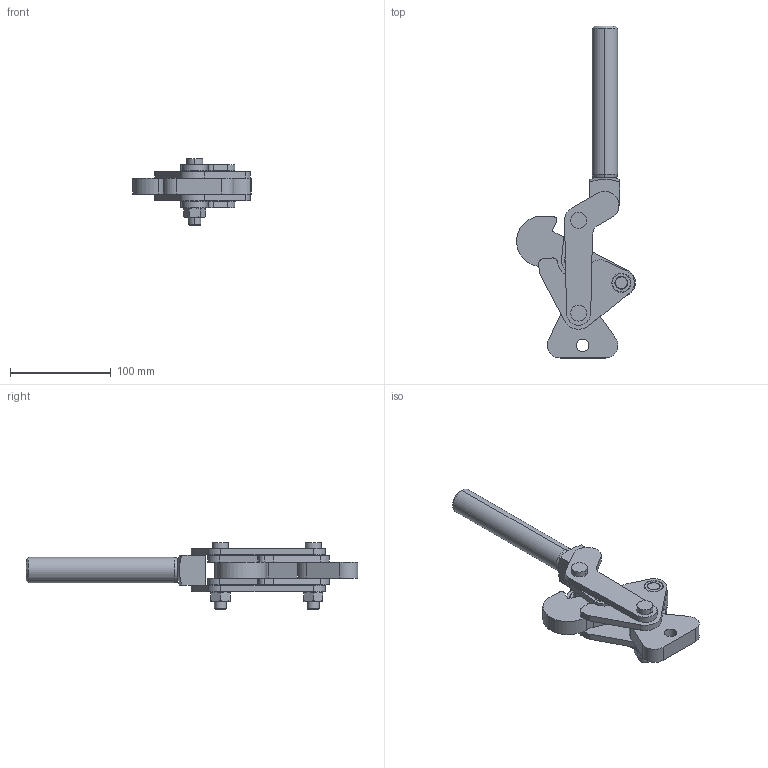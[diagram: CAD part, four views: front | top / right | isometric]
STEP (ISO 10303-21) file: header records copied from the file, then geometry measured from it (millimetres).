
FILE_DESCRIPTION (( 'STEP AP203' ), '1' );
FILE_NAME ('KFU-06 R.step', '2011-05-12T15:01:23', ( 'Usuario' ), ( '' ), 'SwSTEP 2.0', 'SolidWorks 2011', '' );
FILE_SCHEMA (( 'CONFIG_CONTROL_DESIGN' ));
Length unit declared in the file: millimetre
Products named in the file (13): KFU-06 R; 16.20021; 11.50004; 12.50007; 05.20015; 05.20014; 01.20009; 15.20005_Montagem; 08.10023_Montagem; 15.10019_Montagem; 03.15014_Montagem; 15.10018_Montagem; 02.11027_Montagem
Assembly tree (25 placements, depth 2):
  KFU-06 R
    16.20021  x2
    15.10018_Montagem  x2
    08.10023_Montagem  x2
    12.50007  x2
    05.20015  x8
    11.50004  x2
    15.10019_Montagem  x2
    05.20014
    01.20009
    02.11027_Montagem
    15.20005_Montagem
    03.15014_Montagem
Bounding box: 117.93 x 329.5 x 66.4 mm (x, y, z)
Volume: 339959.7 mm3; surface area: 107911 mm2
Topology: 25 solids, 25 shells, 315 faces, 710 edges, 448 vertices
Faces by surface type: cylinder 144, plane 99, cone 70, sphere 2
Entity records: 6453 total; most frequent: CARTESIAN_POINT 915, DIRECTION 890, ORIENTED_EDGE 724, EDGE_CURVE 362, AXIS2_PLACEMENT_3D 359, VERTEX_POINT 232, EDGE_LOOP 186, CIRCLE 174
